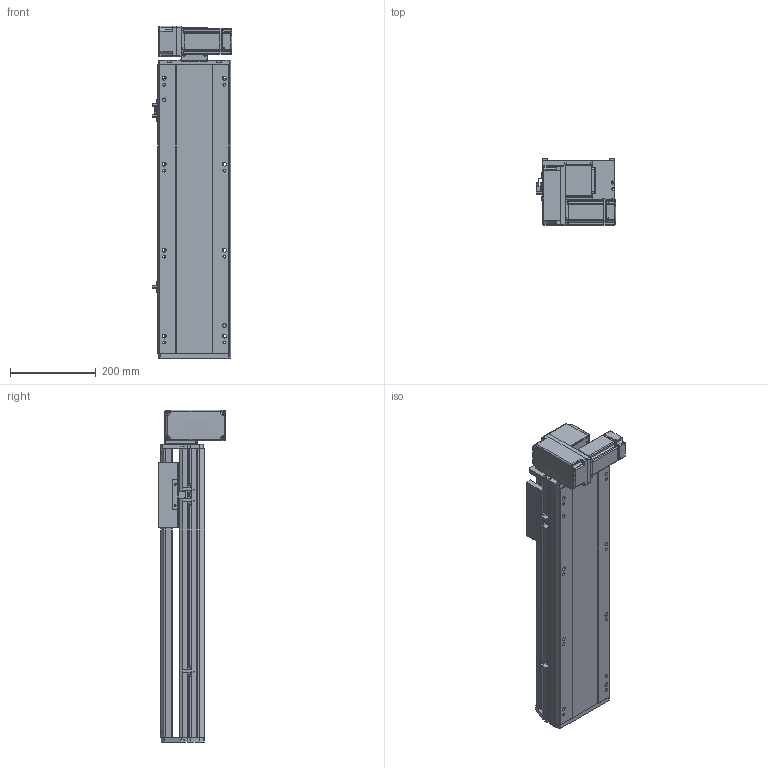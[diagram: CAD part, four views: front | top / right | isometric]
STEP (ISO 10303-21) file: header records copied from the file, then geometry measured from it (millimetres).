
FILE_DESCRIPTION (( 'STEP AP214' ), '1' );
FILE_NAME ('RTB17S-XX-400-LM-M40-C4.STEP', '2025-12-11T06:22:17', ( '' ), ( '' ), 'SwSTEP 2.0', 'SolidWorks 2018', '' );
FILE_SCHEMA (( 'AUTOMOTIVE_DESIGN' ));
Length unit declared in the file: millimetre
Products named in the file (14): RTB17-R-011菁釱^RTB17S-XX-XX-LM-M40-C4; RMP17S-L-014-T20--々湍釱^RTB17S-LM-々湍釱蚾饜-400W_RTB17S-XX-XX-LM-M40-C4; 400W侜督萇儂^RTB17S-XX-XX-LM-M40-C4; RTB14-L-017P^RTB17S-LM-々湍釱蚾饜-400W_RTB17S-XX-XX-LM-M40-C4; RTB17S-L-007奻裔^RTB17S-XX-XX-LM-M40-C4; RTB17S-LM-々湍釱蚾饜-400W^RTB17S-XX-XX-LM-M40-C4; RTB14-L-018P^RTB17S-LM-々湍釱蚾饜-400W_RTB17S-XX-XX-LM-M40-C4; RTB17S-L-004佪裝蹟譫蟀諉釱^RTB17S-XX-XX-LM-M40-C4; RTB14-L-005P--轴承塑胶压盖^RTB17S-LM-皮带座装配-400W_RTB17S-XX-XX-LM-M40-C4; RTB17S-L-001耜醱啣^RTB17S-XX-XX-LM-M40-C4; RTH13-BL-012覜茼え俋离^RTB17S-XX-XX-LM-M40-C4; RTB17S-XX-400-LM-M40-C4; OMRON EE-SX672 传感器^RTB17S-XX-XX-LM-M40-C4; RTB14-L-008-M20--萇儂啣^RTB17S-LM-々湍釱蚾饜-400W_RTB17S-XX-XX-LM-M40-C4
Assembly tree (16 placements, depth 3):
  RTB17S-XX-400-LM-M40-C4
    RTB17-R-011菁釱^RTB17S-XX-XX-LM-M40-C4
    RTB17S-L-007奻裔^RTB17S-XX-XX-LM-M40-C4
    OMRON EE-SX672 传感器^RTB17S-XX-XX-LM-M40-C4  x3
    RTH13-BL-012覜茼え俋离^RTB17S-XX-XX-LM-M40-C4
    RTB17S-L-001耜醱啣^RTB17S-XX-XX-LM-M40-C4
    400W侜督萇儂^RTB17S-XX-XX-LM-M40-C4
    RTB17S-L-004佪裝蹟譫蟀諉釱^RTB17S-XX-XX-LM-M40-C4
    RTB17S-LM-々湍釱蚾饜-400W^RTB17S-XX-XX-LM-M40-C4
      RMP17S-L-014-T20--々湍釱^RTB17S-LM-々湍釱蚾饜-400W_RTB17S-XX-XX-LM-M40-C4
      RTB14-L-005P--轴承塑胶压盖^RTB17S-LM-皮带座装配-400W_RTB17S-XX-XX-LM-M40-C4
      RTB14-L-008-M20--萇儂啣^RTB17S-LM-々湍釱蚾饜-400W_RTB17S-XX-XX-LM-M40-C4
      RTB14-L-017P^RTB17S-LM-々湍釱蚾饜-400W_RTB17S-XX-XX-LM-M40-C4  x2
      RTB14-L-018P^RTB17S-LM-々湍釱蚾饜-400W_RTB17S-XX-XX-LM-M40-C4
Bounding box: 186 x 156.5 x 772.5 mm (x, y, z)
Volume: 7484045.1 mm3; surface area: 963590.7 mm2
Topology: 15 solids, 15 shells, 2157 faces, 5925 edges, 3861 vertices
Faces by surface type: plane 1062, cylinder 647, bspline 301, cone 139, torus 8
Entity records: 60329 total; most frequent: CARTESIAN_POINT 16730, ORIENTED_EDGE 8694, DIRECTION 8126, EDGE_CURVE 4347, VERTEX_POINT 2849, AXIS2_PLACEMENT_3D 2779, VECTOR 2568, LINE 2568
